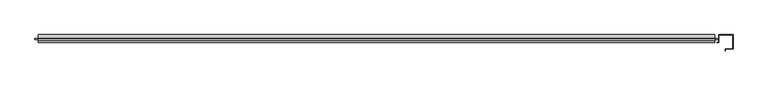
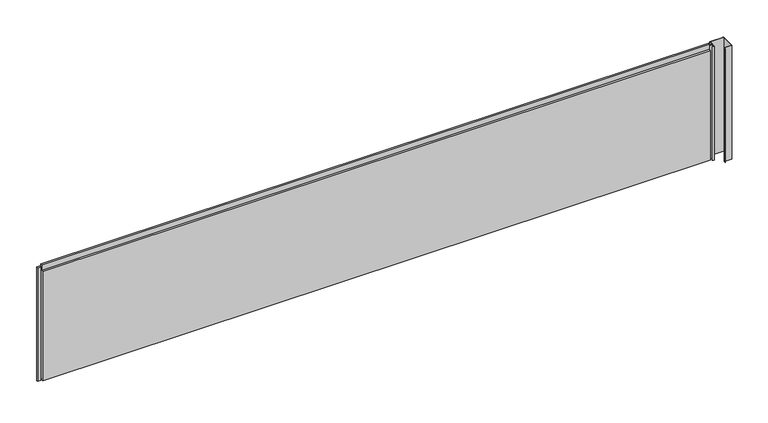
"""IFC4 building model written with IfcOpenShell, lengths in millimetres: plate geometry, Trimo_Qbiss Screen_Normal Panel-HORIZONTAL : HR - B."""

from ifc_helpers import new_model, si_unit, frame, origin, place, context, project, spatial, polyline, outline, extrude, source, transform, mapped, element, save


def plate_2fcbd17c(model_context):
    return source(origin(), model_context, "Body", "SweptSolid", [
        extrude(outline(polyline([(-2191.75, 76.5978162), (-2191.75, 67.8978162), (-2210.75, 67.8978162), (-2210.75, 76.5978162), (-2191.75, 76.5978162)])), frame((0.0, 0.0, -1.0), z_axis=(0.0, 0.0, 1.0), x_axis=(1.0, 0.0, 0.0)), (0.0, 0.0, 1.0), 787.95),
        extrude(outline(polyline([(2187.25, 67.8978162), (2187.25, 76.5978162), (2206.25, 76.5978162), (2206.25, 67.8978162), (2187.25, 67.8978162)])), frame((0.0, 0.0, -1.0), z_axis=(0.0, 0.0, 1.0), x_axis=(1.0, 0.0, 0.0)), (0.0, 0.0, 1.0), 787.95),
        extrude(outline(polyline([(2184.25, 76.0), (2184.25, 71.0), (-2188.75, 71.0), (-2188.75, 76.0), (2184.25, 76.0)])), frame((0.0, 0.0, 765.95), z_axis=(0.0, 0.0, 1.0), x_axis=(1.0, 0.0, 0.0)), (0.0, 0.0, 1.0), 21.0),
        extrude(outline(polyline([(71.0, 764.95), (100.0, 764.95), (100.0, 0.0), (72.0, 0.0), (72.0, 15.5), (62.0, 15.5), (62.0, 7.0), (50.0, 7.0), (50.0, 764.95), (63.0, 764.95), (63.0, 802.45), (71.0, 802.45), (71.0, 764.95)])), frame((-2188.75, 0.0, 0.0), z_axis=(1.0, 0.0, 0.0), x_axis=(0.0, 1.0, 0.0)), (0.0, 0.0, 1.0), 4373.0),
        extrude(outline(polyline([(2209.25, 50.0), (2209.25, 100.0), (2301.25, 100.0), (2301.25, 8.0), (2251.25, 8.0), (2251.25, -4.5), (2250.45, -4.5), (2250.45, 8.8), (2300.45, 8.8), (2300.45, 99.2), (2210.05, 99.2), (2210.05, 49.1823429), (2196.75, 49.1823429), (2196.75, 50.0), (2209.25, 50.0)])), frame((0.0, 0.0, -1.0), z_axis=(0.0, 0.0, 1.0), x_axis=(1.0, 0.0, 0.0)), (0.0, 0.0, 1.0), 787.95),
    ])


if __name__ == "__main__":
    model = new_model("IFC4")
    model_context = context("Model", 3, world=origin())
    ifc_project = project(units=[si_unit("LENGTHUNIT", "METRE", prefix="MILLI")], contexts=[model_context])
    site = spatial("IfcSite", under=ifc_project)
    building = spatial("IfcBuilding", under=site)
    placement = place(None, origin())
    plate_shape = plate_2fcbd17c(model_context)
    element("IfcPlate", 1, ObjectType="Trimo_Qbiss Screen_Normal Panel-HORIZONTAL : HR - B", at=placement, inside=building, context=model_context, shape_type="MappedRepresentation", body=[
        mapped(plate_shape, transform((0.0, 0.0, 0.0), x_axis=(1.0, 0.0, 0.0), y_axis=(0.0, 1.0, 0.0), z_axis=(0.0, 0.0, 1.0))),
    ])
    save(model, "model.ifc")
